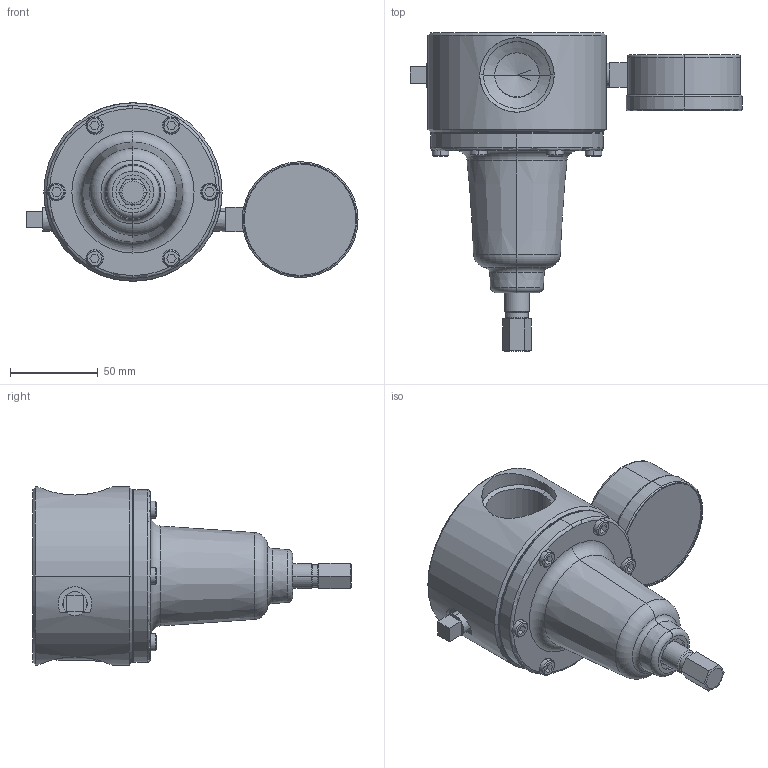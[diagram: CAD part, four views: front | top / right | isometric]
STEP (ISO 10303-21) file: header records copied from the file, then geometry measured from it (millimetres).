
FILE_DESCRIPTION((''),'2;1');
FILE_NAME('208997-EN-U_PRT','2020-07-16T08:56:08',('qusrh3'),(''),'CREO PARAMETRIC BY PTC INC, 2019030','CREO PARAMETRIC BY PTC INC, 2019030','');
FILE_SCHEMA(('CONFIG_CONTROL_DESIGN'));
Length unit declared in the file: inch
Products named in the file (1): 208997-EN-U_PRT
Bounding box: 189.23 x 181.6 x 101.6 mm (x, y, z)
Surface area: 112666 mm2 (no closed solid volume)
Topology: 0 solids, 20 shells, 234 faces, 657 edges, 449 vertices
Faces by surface type: plane 102, cylinder 64, cone 48, torus 20
Entity records: 8014 total; most frequent: CARTESIAN_POINT 1751, DIRECTION 1394, ORIENTED_EDGE 1142, EDGE_CURVE 653, AXIS2_PLACEMENT_3D 548, VERTEX_POINT 449, CIRCLE 314, VECTOR 298
